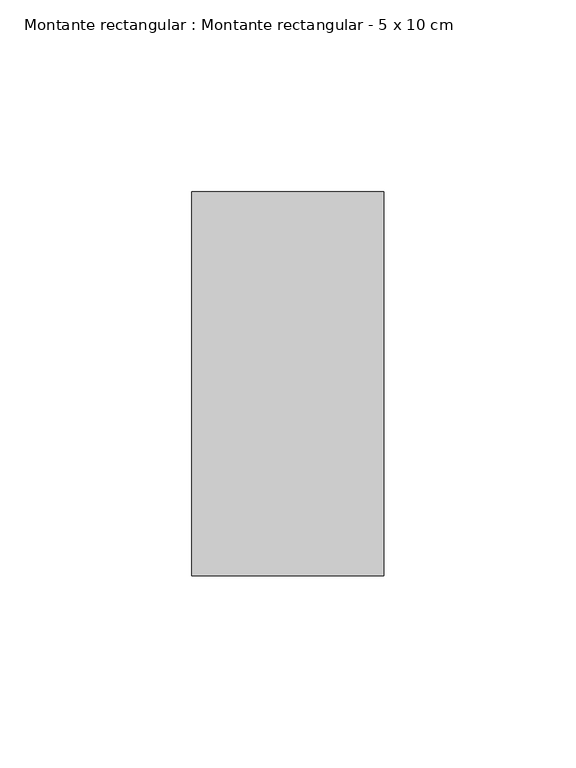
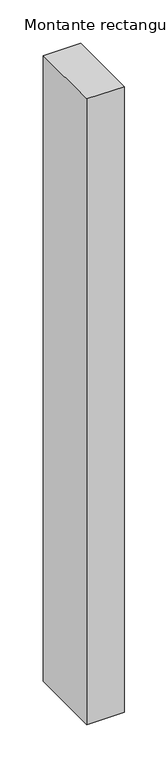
"""IFC4 building model written with IfcOpenShell, lengths in millimetres: member geometry, Montante rectangular : Montante rectangular - 5 x 10 cm."""

import ifcopenshell
import ifcopenshell.guid

model = None  # the IFC model being written
_history = None  # IfcOwnerHistory: only IFC2X3 demands one
_inside = {}  # id of a spatial element -> (the spatial element, [elements in it])
_under = {}  # id of a project, library or spatial element -> (it, [spatial elements below it])
_declared = {}  # id of a project -> (the project, [libraries it declares])
_typed = {}  # id of a type object -> (the type object, [elements of that type])
_made_of = {}  # id of a material, layer set ... -> (it, [elements and type objects made of it])


def new_model(schema):
    """Start an empty IFC model of exactly this schema.

    Asked for "IFC4X3", IfcOpenShell would pick the latest addendum, in which some entities
    have other attributes; the version numbers below select the first issue.
    IFC2X3 requires an IfcOwnerHistory on every rooted entity: one is made here for all.
    """
    global model, _history
    if schema == "IFC4X3":
        model = ifcopenshell.file(schema_version=(4, 3, 0, 0))
    else:
        model = ifcopenshell.file(schema=schema)
    _inside.clear()
    _under.clear()
    _declared.clear()
    _typed.clear()
    _made_of.clear()
    _history = None
    if model.schema == "IFC2X3":
        org = make("IfcOrganization", Name="unknown")
        user = make(
            "IfcPersonAndOrganization",
            ThePerson=make("IfcPerson", FamilyName="unknown"),
            TheOrganization=org,
        )
        app = make(
            "IfcApplication",
            ApplicationDeveloper=org,
            Version="unknown",
            ApplicationFullName="unknown",
            ApplicationIdentifier="unknown",
        )
        _history = make(
            "IfcOwnerHistory",
            OwningUser=user,
            OwningApplication=app,
            ChangeAction="ADDED",
            CreationDate=0,
        )
    return model


def make(cls, **values):
    """One entity of the class cls with the attributes given. An attribute that is None is left unset."""
    return model.create_entity(
        cls, **{name: value for name, value in values.items() if value is not None}
    )


def rooted(cls, **values):
    """An entity with a GlobalId (a new one), such as an element, a storey or a relation."""
    return make(cls, GlobalId=ifcopenshell.guid.new(), OwnerHistory=_history, **values)


def si_unit(unit_type, name, prefix=None):
    """IfcSIUnit, for example si_unit("LENGTHUNIT", "METRE", prefix="MILLI")."""
    return make("IfcSIUnit", UnitType=unit_type, Prefix=prefix, Name=name)


def assignment(units):
    """IfcUnitAssignment: the units of a project."""
    return None if units is None else make("IfcUnitAssignment", Units=units)


def point(xyz):
    """IfcCartesianPoint."""
    return None if xyz is None else make("IfcCartesianPoint", Coordinates=xyz)


def direction(xyz):
    """IfcDirection."""
    return None if xyz is None else make("IfcDirection", DirectionRatios=xyz)


def frame(location, z_axis=None, x_axis=None):
    """IfcAxis2Placement3D, a coordinate frame: its origin and axes. An axis left out is left unset."""
    return make(
        "IfcAxis2Placement3D",
        Location=point(location),
        Axis=direction(z_axis),
        RefDirection=direction(x_axis),
    )


def origin():
    """The frame at (0, 0, 0) with its axes left unset."""
    return frame((0.0, 0.0, 0.0))


def place(relative_to, where):
    """IfcLocalPlacement: puts the frame where relative to a parent placement (None: the world)."""
    return make(
        "IfcLocalPlacement", PlacementRelTo=relative_to, RelativePlacement=where
    )


def context(
    kind, dimensions, precision=None, world=None, true_north=None, identifier=None
):
    """IfcGeometricRepresentationContext, for example the 3D "Model" context."""
    return make(
        "IfcGeometricRepresentationContext",
        ContextIdentifier=identifier,
        ContextType=kind,
        CoordinateSpaceDimension=dimensions,
        Precision=precision,
        WorldCoordinateSystem=world,
        TrueNorth=true_north,
    )


def project(units=None, contexts=None):
    """IfcProject with its units and contexts."""
    return rooted(
        "IfcProject",
        Name="project",
        RepresentationContexts=contexts,
        UnitsInContext=assignment(units),
    )


def spatial(cls, under=None, at=None, **own):
    """A site, building, storey or space (cls), placed at a placement, below another one or the project."""
    s = rooted(cls, ObjectPlacement=at, **own)
    if under is not None:
        _under.setdefault(under.id(), (under, []))[1].append(s)
    return s


def polyline(points):
    """IfcPolyline through the points."""
    return make("IfcPolyline", Points=[point(p) for p in points])


def outline(outer, holes=None, kind="AREA"):
    """IfcArbitraryClosedProfileDef: a profile drawn as a closed curve; with holes, ...WithVoids."""
    if holes is None:
        return make("IfcArbitraryClosedProfileDef", ProfileType=kind, OuterCurve=outer)
    return make(
        "IfcArbitraryProfileDefWithVoids",
        ProfileType=kind,
        OuterCurve=outer,
        InnerCurves=holes,
    )


def extrude(swept, where, along, depth):
    """IfcExtrudedAreaSolid: the profile swept, set in the frame where, extruded along a direction by depth."""
    return make(
        "IfcExtrudedAreaSolid",
        SweptArea=swept,
        Position=where,
        ExtrudedDirection=direction(along),
        Depth=depth,
    )


def shape(context_of_items, identifier, shape_type, items):
    """IfcShapeRepresentation: the items that make up one representation, for example the "Body"."""
    return make(
        "IfcShapeRepresentation",
        ContextOfItems=context_of_items,
        RepresentationIdentifier=identifier,
        RepresentationType=shape_type,
        Items=items,
    )


def source(mapping_origin, context_of_items, identifier, shape_type, items):
    """IfcRepresentationMap: a shape defined once, which mapped items show again and again."""
    return make(
        "IfcRepresentationMap",
        MappingOrigin=mapping_origin,
        MappedRepresentation=shape(context_of_items, identifier, shape_type, items),
    )


def transform(
    local_origin,
    x_axis=None,
    y_axis=None,
    z_axis=None,
    scale=None,
    scale2=None,
    scale3=None,
    uniform=True,
):
    """IfcCartesianTransformationOperator3D, or its non-uniform kind. x_axis, y_axis, z_axis: its Axis1, 2, 3."""
    if uniform:
        return make(
            "IfcCartesianTransformationOperator3D",
            Axis1=direction(x_axis),
            Axis2=direction(y_axis),
            LocalOrigin=point(local_origin),
            Scale=scale,
            Axis3=direction(z_axis),
        )
    return make(
        "IfcCartesianTransformationOperator3DnonUniform",
        Axis1=direction(x_axis),
        Axis2=direction(y_axis),
        LocalOrigin=point(local_origin),
        Scale=scale,
        Axis3=direction(z_axis),
        Scale2=scale2,
        Scale3=scale3,
    )


def mapped(mapping_source, mapping_target):
    """IfcMappedItem: shows the shape of a source again, moved by a transform."""
    return make(
        "IfcMappedItem", MappingSource=mapping_source, MappingTarget=mapping_target
    )


def made_of(thing, what):
    """Note that an element or type object is made of a material, layer set ...; save() writes the relation."""
    if what is not None:
        _made_of.setdefault(what.id(), (what, []))[1].append(thing)
    return thing


def element(
    cls,
    number,
    at=None,
    inside=None,
    cuts=None,
    type_object=None,
    material=None,
    context=None,
    identifier="Body",
    shape_type=None,
    held_by="IfcProductDefinitionShape",
    body=None,
    shapes=None,
    **own,
):
    """One element of the class cls, such as IfcWall. Its Tag is "e" and its number.

    at: its placement. inside: the storey or other place that contains it. cuts: it is an
    opening in that element (IfcRelVoidsElement). A single representation is given by context,
    identifier, shape_type and body (its items); several are given by shapes. held_by: the class
    of the entity that holds the representations. save() writes the other relations.
    """
    e = rooted(cls, Tag="e%d" % number, ObjectPlacement=at, **own)
    if body is not None:
        shapes = [shape(context, identifier, shape_type, body)]
    if shapes is not None:
        e.Representation = make(held_by, Representations=shapes)
    if inside is not None:
        _inside.setdefault(inside.id(), (inside, []))[1].append(e)
    if cuts is not None:
        rooted(
            "IfcRelVoidsElement", RelatingBuildingElement=cuts, RelatedOpeningElement=e
        )
    if type_object is not None:
        _typed.setdefault(type_object.id(), (type_object, []))[1].append(e)
    return made_of(e, material)


def aggregate(whole, parts):
    """IfcRelAggregates: a whole, such as a stair, and the parts it consists of."""
    return rooted("IfcRelAggregates", RelatingObject=whole, RelatedObjects=parts)


def save(model, path):
    """Write the relations noted so far, then the file.

    IfcRelAggregates (storeys below a building ...), IfcRelContainedInSpatialStructure (elements
    in a storey), IfcRelDefinesByType, IfcRelAssociatesMaterial and IfcRelDeclares: one each for
    every whole, place, type object, material and project.
    """
    for whole, parts in _under.values():
        aggregate(whole, parts)
    for where, things in _inside.values():
        rooted(
            "IfcRelContainedInSpatialStructure",
            RelatedElements=things,
            RelatingStructure=where,
        )
    for kind, things in _typed.values():
        rooted("IfcRelDefinesByType", RelatedObjects=things, RelatingType=kind)
    for what, things in _made_of.values():
        rooted("IfcRelAssociatesMaterial", RelatedObjects=things, RelatingMaterial=what)
    for by, libraries in _declared.values():
        rooted("IfcRelDeclares", RelatingContext=by, RelatedDefinitions=libraries)
    model.write(path)


def montante_rectangular_montante_rectangular_5_x_10_cm_8aed7c59(model_context):
    return source(origin(), model_context, "Body", "SweptSolid", [
        extrude(outline(polyline([(25.0, 50.0), (25.0, -50.0), (-25.0, -50.0), (-25.0, 50.0), (25.0, 50.0)])), frame((0.0, 0.0, -880.0), z_axis=(0.0, 0.0, 1.0), x_axis=(1.0, 0.0, 0.0)), (0.0, 0.0, 1.0), 880.0),
    ])


if __name__ == "__main__":
    model = new_model("IFC4")
    model_context = context("Model", 3, world=origin())
    ifc_project = project(units=[si_unit("LENGTHUNIT", "METRE", prefix="MILLI")], contexts=[model_context])
    site = spatial("IfcSite", under=ifc_project)
    building = spatial("IfcBuilding", under=site)
    placement = place(None, origin())
    montante_rectangular_montante_rectangular_5_x_10_cm_shape = montante_rectangular_montante_rectangular_5_x_10_cm_8aed7c59(model_context)
    element("IfcMember", 1, ObjectType="Montante rectangular : Montante rectangular - 5 x 10 cm", at=placement, inside=building, context=model_context, shape_type="MappedRepresentation", body=[
        mapped(montante_rectangular_montante_rectangular_5_x_10_cm_shape, transform((0.0, 0.0, 0.0), x_axis=(1.0, 0.0, 0.0), y_axis=(0.0, 1.0, 0.0), z_axis=(0.0, 0.0, 1.0))),
    ])
    save(model, "model.ifc")
